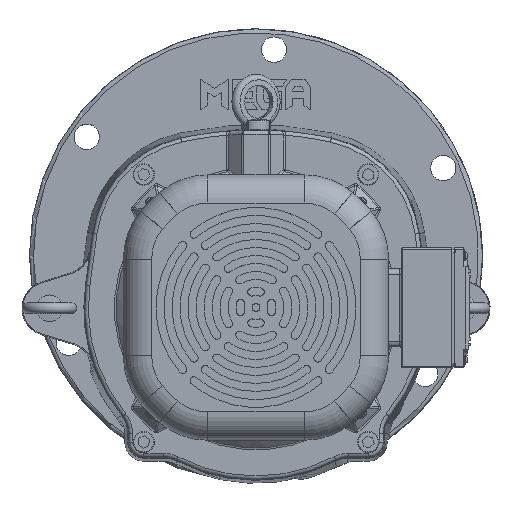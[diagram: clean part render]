
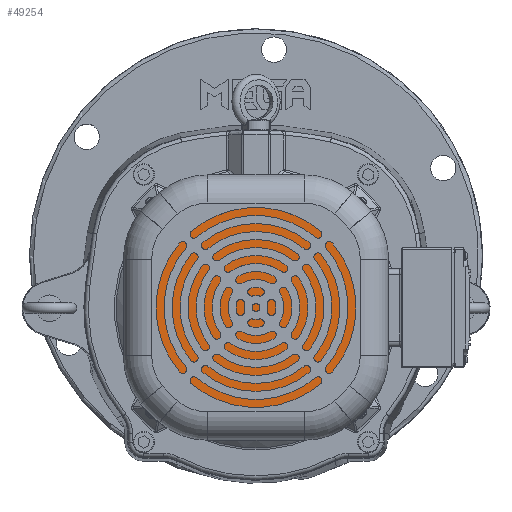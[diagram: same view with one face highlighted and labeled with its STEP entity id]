
A CAD part, top view. The second image highlights one B-rep face of the part: STEP entity #49254.
In plain terms, the highlighted planar face has unit normal (0, 0, 1).
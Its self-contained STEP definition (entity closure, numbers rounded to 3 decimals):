
#1201=PLANE('',#53040);
#9210=FACE_OUTER_BOUND('',#12185,.T.);
#12185=EDGE_LOOP('',(#35108));
#15210=CIRCLE('',#53038,87.5);
#20277=VERTEX_POINT('',#76253);
#25622=EDGE_CURVE('',#20277,#20277,#15210,.T.);
#35108=ORIENTED_EDGE('',*,*,#25622,.F.);
#49254=ADVANCED_FACE('',(#9210),#1201,.F.);
#53038=AXIS2_PLACEMENT_3D('',#76254,#61140,#61141);
#53040=AXIS2_PLACEMENT_3D('',#76258,#61145,#61146);
#61140=DIRECTION('center_axis',(0.,0.,
-1.));
#61141=DIRECTION('ref_axis',(-0.707,0.707,0.));
#61145=DIRECTION('center_axis',(0.,0.,
-1.));
#61146=DIRECTION('ref_axis',(-0.707,0.707,0.));
#76253=CARTESIAN_POINT('',(45.653,-92.846,400.184));
#76254=CARTESIAN_POINT('Origin',(-16.219,-30.974,400.184));
#76258=CARTESIAN_POINT('Origin',(-16.219,-30.974,400.184));
